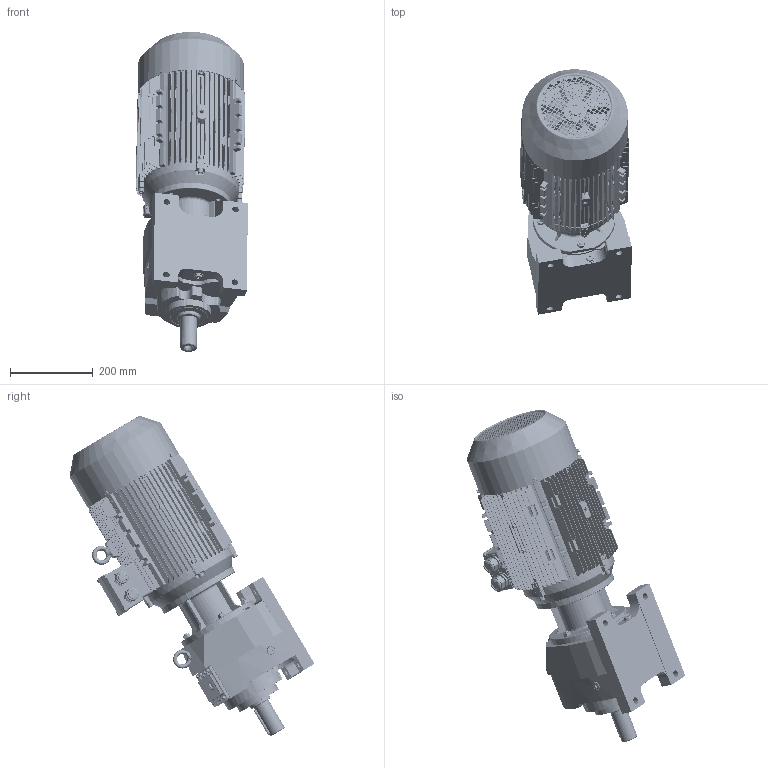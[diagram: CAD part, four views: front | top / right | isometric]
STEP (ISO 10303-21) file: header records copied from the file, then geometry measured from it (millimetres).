
FILE_DESCRIPTION (( 'STEP AP203' ), '1' );
FILE_NAME ('MV_373_0_MX132M.STEP', '2018-12-05T13:11:25', ( '' ), ( '' ), 'SwSTEP 2.0', 'SolidWorks 2012', '' );
FILE_SCHEMA (( 'CONFIG_CONTROL_DESIGN' ));
Length unit declared in the file: millimetre
Products named in the file (23): DMX-IE3 132 oil seal; DMX-IE3 132 shaft cover; plain parallel keys_GB_CONNECTING_PIECE_KEYS_CSK 10X70; eyebolts gb_GB_FASTENER_SCREWS_FRS M10-N; DMX-IE3 132 terimianl cover; DMX-IE3 132 terminal base; DMX-IE3 132 fan cover; deep groove ball bearings gb_Rolling bearings 6308 GB 276-94; DMX-IE3 132 B3 Shield; DMX-IE3 132shaft; DMX-IE3 132 fan; M373; 33132B14_Varsayìlan; ML2A_Varsayìlan; DMX-IE3 132 casing; MV_373_0_MX132M; MX3-132M_B14; DMX-IE3 Flange; cross recessed pan head screws gb_GB_CROSS_SCREWS_TYPE1 M5X12-12  H type-N; hexagon nuts grade c gb_GB_FASTENER_NUT_SNC1 M8-N; hexagon flange head tapping screws gb_GB_SQUARE_AND_HEXAGON_TYPE137 ST4.8X9.5 C-N; hexagon socket head cap screws gb_GB_FASTENER_SCREWS_HSHCS M8X40-N; spring lock washers--normal type gb_GB_FASTENER_WASHER_SW 8
Assembly tree (50 placements, depth 3):
  MV_373_0_MX132M
    M373
    33132B14_Varsayìlan
    ML2A_Varsayìlan
    MX3-132M_B14
      DMX-IE3 132 casing
      DMX-IE3 132 B3 Shield
      DMX-IE3 132shaft
      deep groove ball bearings gb_Rolling bearings 6308 GB 276-94  x2
      DMX-IE3 132 fan
      DMX-IE3 132 fan cover
      DMX-IE3 132 terminal base
      DMX-IE3 132 terimianl cover
      DMX-IE3 132 shaft cover  x2
      DMX-IE3 132 oil seal
      plain parallel keys_GB_CONNECTING_PIECE_KEYS_CSK 10X70
      eyebolts gb_GB_FASTENER_SCREWS_FRS M10-N
      spring lock washers--normal type gb_GB_FASTENER_WASHER_SW 8  x8
      hexagon socket head cap screws gb_GB_FASTENER_SCREWS_HSHCS M8X40-N  x8
      hexagon nuts grade c gb_GB_FASTENER_NUT_SNC1 M8-N  x7
      hexagon flange head tapping screws gb_GB_SQUARE_AND_HEXAGON_TYPE137 ST4.8X9.5 C-N  x4
      cross recessed pan head screws gb_GB_CROSS_SCREWS_TYPE1 M5X12-12  H type-N  x4
      DMX-IE3 Flange
Bounding box: 269.81 x 593.24 x 774.7 mm (x, y, z)
Volume: 14087916 mm3; surface area: 2323397.1 mm2
Topology: 50 solids, 52 shells, 8190 faces, 21083 edges, 12880 vertices
Faces by surface type: plane 2711, bspline 2277, cylinder 2096, cone 746, torus 242, sphere 118
Entity records: 339954 total; most frequent: CARTESIAN_POINT 173571, ORIENTED_EDGE 38202, DIRECTION 27983, EDGE_CURVE 19101, VERTEX_POINT 11752, AXIS2_PLACEMENT_3D 10130, EDGE_LOOP 8217, VECTOR 7723
